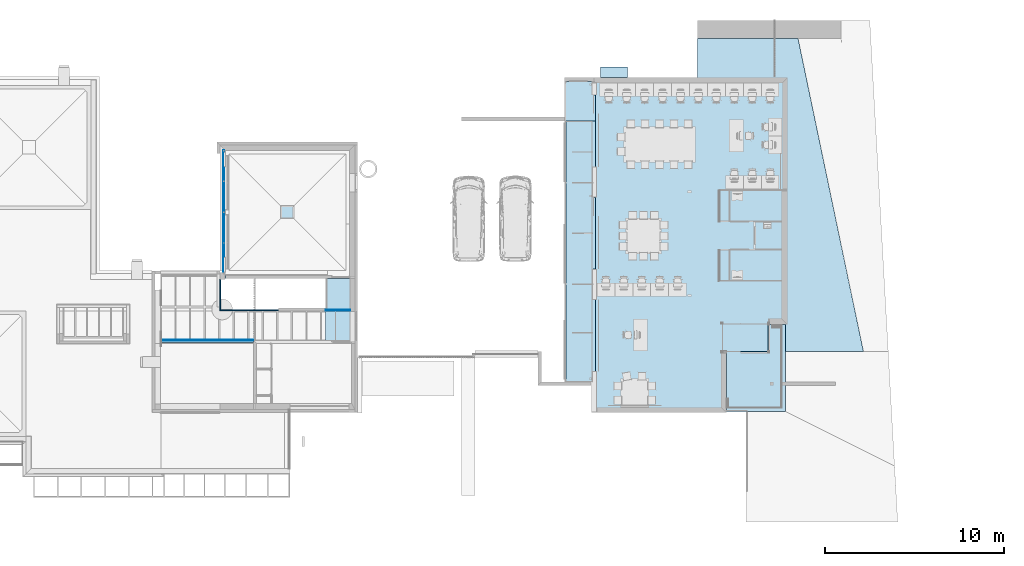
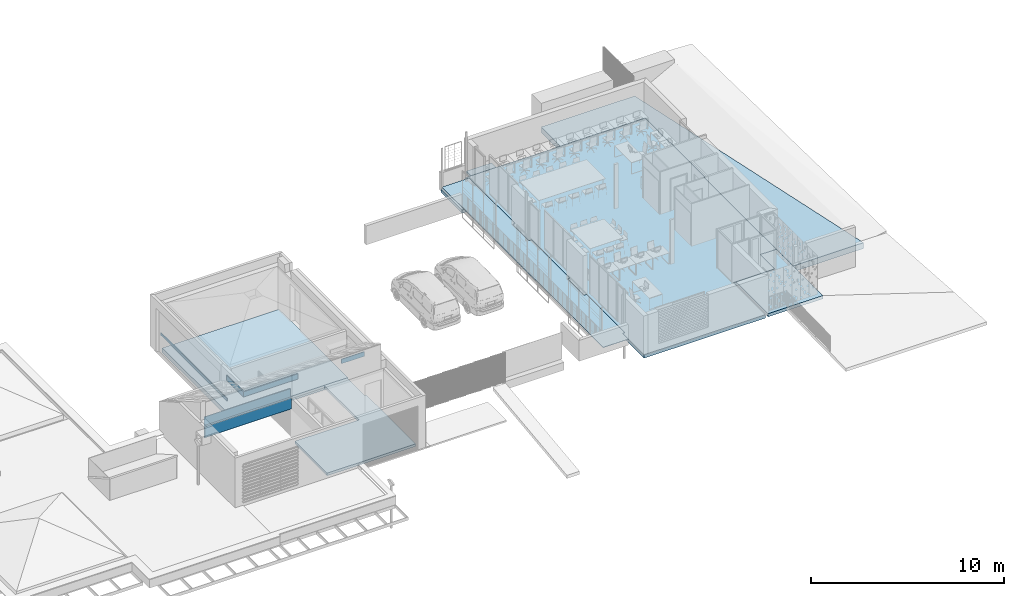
# One storey, part 13 of 51: 13 slabs.
"""IFC2X3 building model written with IfcOpenShell, lengths in metres."""

from ifc_helpers import new_model, entity, si_unit, converted_unit, derived_unit, direction, frame, frame_2d, origin, origin_2d_with_axis, place, context, subcontext, project, spatial, polyline, rectangle, outline, extrude, material, layer, layer_set, layer_usage, type_object, element, save


model = new_model("IFC2X3")

# Units and contexts
model_context = context("Model", 3, precision=1e-05, world=origin(), true_north=direction((6.123031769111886e-17, 1.0)))
body_context = subcontext(model_context, "Body", "Model", "MODEL_VIEW")
ifc_project = project(units=[si_unit("LENGTHUNIT", "METRE"), si_unit("AREAUNIT", "SQUARE_METRE"), si_unit("VOLUMEUNIT", "CUBIC_METRE"), converted_unit("PLANEANGLEUNIT", "DEGREE", entity("IfcRatioMeasure", 0.017453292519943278), si_unit("PLANEANGLEUNIT", "RADIAN"), dimensions=[0, 0, 0, 0, 0, 0, 0]), si_unit("MASSUNIT", "GRAM", prefix="KILO"), derived_unit("MASSDENSITYUNIT", [(si_unit("MASSUNIT", "GRAM", prefix="KILO"), 1), (si_unit("LENGTHUNIT", "METRE"), -3)]), derived_unit("MOMENTOFINERTIAUNIT", [(si_unit("LENGTHUNIT", "METRE"), 4)]), si_unit("TIMEUNIT", "SECOND"), si_unit("FREQUENCYUNIT", "HERTZ"), si_unit("THERMODYNAMICTEMPERATUREUNIT", "DEGREE_CELSIUS"), derived_unit("THERMALTRANSMITTANCEUNIT", [(si_unit("MASSUNIT", "GRAM", prefix="KILO"), 1), (si_unit("THERMODYNAMICTEMPERATUREUNIT", "KELVIN"), -1), (si_unit("TIMEUNIT", "SECOND"), -3)]), derived_unit("THERMALCONDUCTANCEUNIT", [(si_unit("MASSUNIT", "GRAM", prefix="KILO"), 1), (si_unit("LENGTHUNIT", "METRE"), 1), (si_unit("THERMODYNAMICTEMPERATUREUNIT", "KELVIN"), -1), (si_unit("TIMEUNIT", "SECOND"), -3)]), derived_unit("VOLUMETRICFLOWRATEUNIT", [(si_unit("LENGTHUNIT", "METRE"), 3), (si_unit("TIMEUNIT", "SECOND"), -1)]), derived_unit("MASSFLOWRATEUNIT", [(si_unit("MASSUNIT", "GRAM", prefix="KILO"), 1), (si_unit("TIMEUNIT", "SECOND"), -1)]), derived_unit("ROTATIONALFREQUENCYUNIT", [(si_unit("TIMEUNIT", "SECOND"), -1)]), si_unit("ELECTRICCURRENTUNIT", "AMPERE"), si_unit("ELECTRICVOLTAGEUNIT", "VOLT"), si_unit("POWERUNIT", "WATT"), si_unit("FORCEUNIT", "NEWTON", prefix="KILO"), si_unit("ILLUMINANCEUNIT", "LUX"), si_unit("LUMINOUSFLUXUNIT", "LUMEN"), si_unit("LUMINOUSINTENSITYUNIT", "CANDELA"), derived_unit("USERDEFINED", [(si_unit("MASSUNIT", "GRAM", prefix="KILO"), -1), (si_unit("LENGTHUNIT", "METRE"), -2), (si_unit("TIMEUNIT", "SECOND"), 3), (si_unit("LUMINOUSFLUXUNIT", "LUMEN"), 1)]), derived_unit("USERDEFINED", [(si_unit("MASSUNIT", "GRAM", prefix="KILO"), 1), (si_unit("LENGTHUNIT", "METRE"), 3), (si_unit("TIMEUNIT", "SECOND"), -3), (si_unit("ELECTRICCURRENTUNIT", "AMPERE"), -2)]), derived_unit("USERDEFINED", [(si_unit("LENGTHUNIT", "METRE"), 2), (si_unit("TIMEUNIT", "SECOND"), -2)]), derived_unit("SOUNDPOWERUNIT", [(si_unit("MASSUNIT", "GRAM", prefix="KILO"), 1), (si_unit("LENGTHUNIT", "METRE"), 2), (si_unit("TIMEUNIT", "SECOND"), -3)]), derived_unit("SOUNDPRESSUREUNIT", [(si_unit("MASSUNIT", "GRAM", prefix="KILO"), 1), (si_unit("LENGTHUNIT", "METRE"), -1), (si_unit("TIMEUNIT", "SECOND"), -2)]), derived_unit("LINEARVELOCITYUNIT", [(si_unit("LENGTHUNIT", "METRE"), 1), (si_unit("TIMEUNIT", "SECOND"), -1)]), si_unit("PRESSUREUNIT", "PASCAL"), derived_unit("USERDEFINED", [(si_unit("LENGTHUNIT", "METRE"), -2), (si_unit("MASSUNIT", "GRAM", prefix="KILO"), 1), (si_unit("TIMEUNIT", "SECOND"), -2)]), derived_unit("LINEARFORCEUNIT", [(si_unit("MASSUNIT", "GRAM", prefix="KILO"), 1), (si_unit("LENGTHUNIT", "METRE"), 1), (si_unit("TIMEUNIT", "SECOND"), -2), (si_unit("LENGTHUNIT", "METRE"), -1)]), derived_unit("PLANARFORCEUNIT", [(si_unit("MASSUNIT", "GRAM", prefix="KILO"), 1), (si_unit("LENGTHUNIT", "METRE"), 1), (si_unit("TIMEUNIT", "SECOND"), -2), (si_unit("LENGTHUNIT", "METRE"), -2)]), derived_unit("SPECIFICHEATCAPACITYUNIT", [(si_unit("LENGTHUNIT", "METRE"), 2), (si_unit("TIMEUNIT", "SECOND"), -2), (si_unit("THERMODYNAMICTEMPERATUREUNIT", "KELVIN"), -1)]), derived_unit("VAPORPERMEABILITYUNIT", [(si_unit("TIMEUNIT", "SECOND"), 1), (si_unit("LENGTHUNIT", "METRE"), -1)]), derived_unit("DYNAMICVISCOSITYUNIT", [(si_unit("MASSUNIT", "GRAM", prefix="KILO"), 1), (si_unit("LENGTHUNIT", "METRE"), -1), (si_unit("TIMEUNIT", "SECOND"), -1)]), derived_unit("THERMALEXPANSIONCOEFFICIENTUNIT", [(si_unit("THERMODYNAMICTEMPERATUREUNIT", "KELVIN"), -1)])], contexts=[model_context])

# Site, building, storey
site_placement = place(None, origin())
site = spatial("IfcSite", under=ifc_project, at=site_placement, Name="Default", CompositionType="ELEMENT")
building_placement = place(site_placement, origin())
building = spatial("IfcBuilding", under=site, at=building_placement, CompositionType="ELEMENT")
storey_placement = place(building_placement, frame((0.0, 0.0, 3.06)))
storey = spatial("IfcBuildingStorey", under=building, at=storey_placement, Name="ÉTAGE", CompositionType="ELEMENT", Elevation=3.06)

# Slabs
slab_type_1 = type_object("IfcSlabType", Name="Dalle-006", PredefinedType="FLOOR")
slab_1_placement = place(storey_placement, origin())
element("IfcSlab", 1, at=slab_1_placement, inside=storey, type_object=slab_type_1, Name="Dalle-006 252460:Dalle-006 252460", ObjectType="Dalle-006 252460:Dalle-006 252460", PredefinedType="FLOOR", context=body_context, shape_type="SweptSolid", body=[
    extrude(outline(polyline([(-6.558215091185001, -4.311786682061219), (-4.309261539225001, -4.311786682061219), (-4.309261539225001, 0.626212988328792), (-0.011261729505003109, 0.626212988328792), (-0.011261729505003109, 0.5762131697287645), (10.878738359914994, 0.5762131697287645), (10.878738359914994, 4.930508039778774), (-6.558215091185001, 1.2882130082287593), (-6.558215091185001, -4.311786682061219)])), frame((151.61253915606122, 21.865947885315, 0.6399999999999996), z_axis=(0.0, 0.0, 1.0), x_axis=(0.0, -1.0, 0.0)), (0.0, 0.0, 1.0), 0.36999999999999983),
])
ifc_material_1 = material(Name="Bois - Pin granuleux horizontal")
ifc_layer_1 = layer(ifc_material_1, 0.14999999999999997)
ifc_layer_set_1 = layer_set([ifc_layer_1], Name="Sol:Dalle-001:1532")
ifc_layer_usage_1 = layer_usage(ifc_layer_set_1, "AXIS3", "POSITIVE", 0.0)
slab_type_2 = type_object("IfcSlabType", Name="Sol:Dalle-001:1532", PredefinedType="FLOOR", material=ifc_layer_set_1)
slab_2_placement = place(storey_placement, origin())
element("IfcSlab", 2, at=slab_2_placement, inside=storey, type_object=slab_type_2, material=ifc_layer_usage_1, Name="Sol:Dalle-001:1532", ObjectType="Sol:Dalle-001:1532", PredefinedType="FLOOR", context=body_context, shape_type="SweptSolid", body=[
    extrude(rectangle(XDim=6.879999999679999, YDim=0.04999999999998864, at=frame_2d((-1.9984014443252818e-15, 0.0), x_axis=(1.0, 0.0))), frame((120.905752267, 18.747209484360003, 1.0), z_axis=(0.0, 0.0, -1.0), x_axis=(0.0, 1.0, 0.0)), (0.0, 0.0, 1.0), 0.15000000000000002),
])
ifc_material_2 = material(Name="Appareillage - Pierre taillé")
ifc_layer_2 = layer(ifc_material_2, 0.28)
ifc_layer_set_2 = layer_set([ifc_layer_2], Name="Sol:Dalle-005:1552")
ifc_layer_usage_2 = layer_usage(ifc_layer_set_2, "AXIS3", "POSITIVE", 0.0)
slab_type_3 = type_object("IfcSlabType", Name="Sol:Dalle-005:1552", PredefinedType="FLOOR", material=ifc_layer_set_2)
slab_3_placement = place(storey_placement, origin())
element("IfcSlab", 3, at=slab_3_placement, inside=storey, type_object=slab_type_3, material=ifc_layer_usage_2, Name="Sol:Dalle-005:1552", ObjectType="Sol:Dalle-005:1552", PredefinedType="FLOOR", context=body_context, shape_type="SweptSolid", body=[
    extrude(rectangle(XDim=7.140000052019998, YDim=7.010000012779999, at=frame_2d((0.0, 8.659739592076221e-15), x_axis=(1.0, 0.0))), frame((124.48575227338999, 18.617209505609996, 0.0), z_axis=(0.0, 0.0, -1.0), x_axis=(0.0, 1.0, 0.0)), (0.0, 0.0, 1.0), 0.28000000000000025),
])
ifc_material_3 = material(Name="Plastique - Laminé")
ifc_layer_3 = layer(ifc_material_3, 0.02)
ifc_material_4 = material(Name="Béton - Lissé")
ifc_layer_4 = layer(ifc_material_4, 0.04)
ifc_material_5 = material(Name="Isolation - Polystyrène")
ifc_layer_5 = layer(ifc_material_5, 0.16)
ifc_layer_set_3 = layer_set([ifc_layer_3, ifc_layer_4, ifc_layer_5], Name="Sol:Dalle-005:1561")
ifc_layer_usage_3 = layer_usage(ifc_layer_set_3, "AXIS3", "POSITIVE", 0.0)
slab_type_4 = type_object("IfcSlabType", Name="Sol:Dalle-005:1561", PredefinedType="FLOOR", material=ifc_layer_set_3)
slab_4_placement = place(storey_placement, origin())
element("IfcSlab", 4, at=slab_4_placement, inside=storey, type_object=slab_type_4, material=ifc_layer_usage_3, Name="Sol:Dalle-005:1561", ObjectType="Sol:Dalle-005:1561", PredefinedType="FLOOR", context=body_context, shape_type="SweptSolid", body=[
    extrude(outline(polyline([(-2.7400354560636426, -3.544545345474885), (-1.040035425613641, -3.544545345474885), (-1.040035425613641, -3.3965456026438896), (2.9599646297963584, -3.3965456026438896), (2.9599646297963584, -3.544545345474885), (4.660013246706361, -3.544545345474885), (4.660013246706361, -3.3965456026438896), (8.660013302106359, -3.3965456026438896), (8.660013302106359, -3.544545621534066), (9.558013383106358, -3.544545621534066), (9.558013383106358, 7.231454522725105), (3.4100132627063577, 7.231454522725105), (3.4100132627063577, 7.18145440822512), (-4.129986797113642, 7.18145440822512), (-4.129986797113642, 6.223454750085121), (-5.629986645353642, 6.223454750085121), (-5.629986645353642, 3.731454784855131), (-8.96798685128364, 3.731454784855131), (-8.96798685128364, -3.544545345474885), (-6.739986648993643, -3.544545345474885), (-6.739986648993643, -3.3965456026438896), (-2.7400354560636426, -3.3965456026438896), (-2.7400354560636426, -3.544545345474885)])), frame((145.00729775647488, 16.617196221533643, 1.2099999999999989), z_axis=(0.0, 0.0, -1.0), x_axis=(0.0, 1.0, 0.0)), (0.0, 0.0, 1.0), 0.2199999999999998),
])
ifc_material_6 = material(Name="Carrelage - Faience")
ifc_layer_6 = layer(ifc_material_6, 0.03)
ifc_layer_set_4 = layer_set([ifc_layer_6], Name="Sol:Dalle-005:1564")
ifc_layer_usage_4 = layer_usage(ifc_layer_set_4, "AXIS3", "POSITIVE", 0.0)
slab_type_5 = type_object("IfcSlabType", Name="Sol:Dalle-005:1564", PredefinedType="FLOOR", material=ifc_layer_set_4)
slab_5_placement = place(storey_placement, origin())
element("IfcSlab", 5, at=slab_5_placement, inside=storey, type_object=slab_type_5, material=ifc_layer_usage_4, Name="Sol:Dalle-005:1564", ObjectType="Sol:Dalle-005:1564", PredefinedType="FLOOR", context=body_context, shape_type="SweptSolid", body=[
    extrude(outline(polyline([(-7.214268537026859, -1.3422855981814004), (9.53575714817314, -1.3422855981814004), (9.53575714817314, 0.29771431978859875), (4.7757314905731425, 0.29771431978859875), (4.7757314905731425, 0.14971421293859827), (3.075682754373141, 0.14971421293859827), (3.075682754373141, 0.29771431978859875), (-0.9243171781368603, 0.29771431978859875), (-0.9243171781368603, 0.14971421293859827), (-2.6243171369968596, 0.14971421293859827), (-2.6243171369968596, 0.29771431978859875), (-6.624268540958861, 0.29771431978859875), (-6.624268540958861, 0.14971421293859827), (-7.214268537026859, 0.14971421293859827), (-7.214268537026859, -1.3422855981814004)])), frame((141.3130379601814, 16.50147806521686, 1.2099999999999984), z_axis=(0.0, 0.0, -1.0), x_axis=(0.0, 1.0, 0.0)), (0.0, 0.0, 1.0), 0.030000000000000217),
])
ifc_material_7 = material(Name="Plâtre - Plaques de plâtre")
ifc_layer_7 = layer(ifc_material_7, 1.33)
ifc_layer_set_5 = layer_set([ifc_layer_7], Name="Sol:Dalle-010:1568")
ifc_layer_usage_5 = layer_usage(ifc_layer_set_5, "AXIS3", "POSITIVE", 0.0)
slab_type_6 = type_object("IfcSlabType", Name="Sol:Dalle-010:1568", PredefinedType="FLOOR", material=ifc_layer_set_5)
slab_6_placement = place(storey_placement, origin())
element("IfcSlab", 6, at=slab_6_placement, inside=storey, type_object=slab_type_6, material=ifc_layer_usage_5, Name="Sol:Dalle-010:1568", ObjectType="Sol:Dalle-010:1568", PredefinedType="FLOOR", context=body_context, shape_type="SweptSolid", body=[
    extrude(rectangle(XDim=0.02999999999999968, YDim=5.169999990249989, at=frame_2d((-1.083334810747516e-15, 8.659739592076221e-15), x_axis=(1.0, 0.0))), frame((119.96575227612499, 11.622209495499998, 3.2899999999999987), z_axis=(0.0, 0.0, -1.0), x_axis=(0.0, 1.0, 0.0)), (0.0, 0.0, 1.0), 1.3299999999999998),
])
ifc_material_8 = material(Name="Béton - Parpaing (Blocs)")
ifc_layer_8 = layer(ifc_material_8, 0.2)
ifc_layer_set_6 = layer_set([ifc_layer_8], Name="Sol:Dalle-005:1569")
ifc_layer_usage_6 = layer_usage(ifc_layer_set_6, "AXIS3", "POSITIVE", 0.0)
slab_type_7 = type_object("IfcSlabType", Name="Sol:Dalle-005:1569", PredefinedType="FLOOR", material=ifc_layer_set_6)
slab_7_placement = place(storey_placement, origin())
element("IfcSlab", 7, at=slab_7_placement, inside=storey, type_object=slab_type_7, material=ifc_layer_usage_6, Name="Sol:Dalle-005:1569", ObjectType="Sol:Dalle-005:1569", PredefinedType="FLOOR", context=body_context, shape_type="SweptSolid", body=[
    extrude(outline(polyline([(-2.726666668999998, -1.872666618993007), (0.6133333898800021, -1.872666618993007), (0.6133333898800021, 0.45733334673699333), (2.1133332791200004, 0.45733334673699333), (2.1133332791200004, 1.4153332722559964), (-2.726666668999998, 1.4153332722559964), (-2.726666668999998, -1.872666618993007)])), frame((150.773418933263, 10.373876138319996, 1.21), z_axis=(0.0, 0.0, -1.0), x_axis=(0.0, 1.0, 0.0)), (0.0, 0.0, 1.0), 0.2),
])
slab_8_placement = place(storey_placement, origin())
element("IfcSlab", 8, at=slab_8_placement, inside=storey, type_object=slab_type_7, material=ifc_layer_usage_6, Name="Sol:Dalle-005:1569", ObjectType="Sol:Dalle-005:1569", PredefinedType="FLOOR", context=body_context, shape_type="SweptSolid", body=[
    extrude(outline(polyline([(-1.2136582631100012, -1.0906665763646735), (0.9873164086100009, -1.0906665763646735), (0.9873164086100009, 0.47133323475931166), (0.22634185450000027, 0.47133323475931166), (0.22634185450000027, 0.6193333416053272), (-1.2136582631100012, 0.6193333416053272), (-1.2136582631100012, -1.0906665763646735)])), frame((140.99141893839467, 25.05086763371, 1.1099999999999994), z_axis=(0.0, 0.0, -1.0), x_axis=(0.0, 1.0, 0.0)), (0.0, 0.0, 1.0), 0.2),
])
ifc_material_9 = material(Name="Peinture - Blanc brillant")
ifc_layer_9 = layer(ifc_material_9, 0.32999999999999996)
ifc_layer_set_7 = layer_set([ifc_layer_9], Name="Sol:Dalle-010:1572")
ifc_layer_usage_7 = layer_usage(ifc_layer_set_7, "AXIS3", "POSITIVE", 0.0)
slab_type_8 = type_object("IfcSlabType", Name="Sol:Dalle-010:1572", PredefinedType="FLOOR", material=ifc_layer_set_7)
slab_9_placement = place(storey_placement, origin())
element("IfcSlab", 9, at=slab_9_placement, inside=storey, type_object=slab_type_8, material=ifc_layer_usage_7, Name="Sol:Dalle-010:1572", ObjectType="Sol:Dalle-010:1572", PredefinedType="FLOOR", context=body_context, shape_type="SweptSolid", body=[
    extrude(outline(polyline([(-0.6000000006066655, -1.1066666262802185), (1.1500000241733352, -1.1066666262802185), (1.1500000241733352, -1.0566666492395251), (-0.5500000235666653, -1.0566666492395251), (-0.5500000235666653, 2.1633332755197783), (-0.6000000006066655, 2.1633332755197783), (-0.6000000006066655, -1.1066666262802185)])), frame((121.78741899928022, 13.847209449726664, 2.739999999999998), z_axis=(0.0, 0.0, -1.0), x_axis=(0.0, 1.0, 0.0)), (0.0, 0.0, 1.0), 0.3299999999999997),
])
ifc_layer_10 = layer(ifc_material_9, 0.28)
ifc_layer_set_8 = layer_set([ifc_layer_10], Name="Sol:Dalle-010:1573")
ifc_layer_usage_8 = layer_usage(ifc_layer_set_8, "AXIS3", "POSITIVE", 0.0)
slab_type_9 = type_object("IfcSlabType", Name="Sol:Dalle-010:1573", PredefinedType="FLOOR", material=ifc_layer_set_8)
slab_10_placement = place(storey_placement, origin())
element("IfcSlab", 10, at=slab_10_placement, inside=storey, type_object=slab_type_9, material=ifc_layer_usage_8, Name="Sol:Dalle-010:1573", ObjectType="Sol:Dalle-010:1573", PredefinedType="FLOOR", context=body_context, shape_type="SweptSolid", body=[
    extrude(rectangle(XDim=0.050000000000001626, YDim=1.3699999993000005, at=origin_2d_with_axis()), frame((127.25575228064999, 13.272209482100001, 2.7399999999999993), z_axis=(0.0, 0.0, -1.0), x_axis=(0.0, 1.0, 0.0)), (0.0, 0.0, 1.0), 0.28000000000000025),
])
ifc_material_10 = material(Name="Isolation - Fibre de verre")
ifc_layer_11 = layer(ifc_material_10, 0.68)
ifc_layer_set_9 = layer_set([ifc_layer_11], Name="Sol:Dalle-010")
ifc_layer_usage_9 = layer_usage(ifc_layer_set_9, "AXIS3", "POSITIVE", 0.0)
slab_type_10 = type_object("IfcSlabType", Name="Sol:Dalle-010", PredefinedType="FLOOR", material=ifc_layer_set_9)
slab_11_placement = place(storey_placement, origin())
element("IfcSlab", 11, at=slab_11_placement, inside=storey, type_object=slab_type_10, material=ifc_layer_usage_9, Name="Sol:Dalle-010", ObjectType="Sol:Dalle-010", PredefinedType="FLOOR", context=body_context, shape_type="SweptSolid", body=[
    extrude(rectangle(XDim=0.1199999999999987, YDim=5.169999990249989, at=frame_2d((0.0, 8.659739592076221e-15), x_axis=(1.0, 0.0))), frame((119.96575227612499, 11.547209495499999, 2.759999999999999), z_axis=(0.0, 0.0, -1.0), x_axis=(0.0, 1.0, 0.0)), (0.0, 0.0, 1.0), 0.6800000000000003),
])
ifc_layer_12 = layer(ifc_material_2, 0.16)
ifc_layer_set_10 = layer_set([ifc_layer_12], Name="Sol:Dalle-005:1592")
ifc_layer_usage_10 = layer_usage(ifc_layer_set_10, "AXIS3", "POSITIVE", 0.0)
slab_type_11 = type_object("IfcSlabType", Name="Sol:Dalle-005:1592", PredefinedType="FLOOR", material=ifc_layer_set_10)
slab_12_placement = place(storey_placement, origin())
element("IfcSlab", 12, at=slab_12_placement, inside=storey, type_object=slab_type_11, material=ifc_layer_usage_10, Name="Sol:Dalle-005:1592", ObjectType="Sol:Dalle-005:1592", PredefinedType="FLOOR", context=body_context, shape_type="SweptSolid", body=[
    extrude(outline(polyline([(-3.857500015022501, -3.5950000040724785), (-0.5074999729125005, -3.5950000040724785), (-0.5074999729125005, 0.25500008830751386), (3.102499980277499, 0.25500008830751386), (3.102499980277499, 1.6249999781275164), (1.2625000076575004, 1.6249999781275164), (1.2625000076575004, 1.7149999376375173), (-3.857500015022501, 1.7149999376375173), (-3.857500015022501, -3.5950000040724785)])), frame((126.31575233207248, 11.9447094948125, 0.0), z_axis=(0.0, 0.0, -1.0), x_axis=(0.0, 1.0, 0.0)), (0.0, 0.0, 1.0), 0.1599999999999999),
])
ifc_layer_13 = layer(ifc_material_8, 0.12)
ifc_layer_set_11 = layer_set([ifc_layer_13], Name="Sol:Dalle-005:1705")
ifc_layer_usage_11 = layer_usage(ifc_layer_set_11, "AXIS3", "POSITIVE", 0.0)
slab_type_12 = type_object("IfcSlabType", Name="Sol:Dalle-005:1705", PredefinedType="FLOOR", material=ifc_layer_set_11)
slab_13_placement = place(storey_placement, origin())
element("IfcSlab", 13, at=slab_13_placement, inside=storey, type_object=slab_type_12, material=ifc_layer_usage_11, Name="Sol:Dalle-005:1705", ObjectType="Sol:Dalle-005:1705", PredefinedType="FLOOR", context=body_context, shape_type="SweptSolid", body=[
    extrude(rectangle(XDim=0.6000000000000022, YDim=1.5000000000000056, at=origin_2d_with_axis()), frame((142.650752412, 26.537235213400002, 1.0599999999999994), z_axis=(0.0, 0.0, -1.0), x_axis=(0.0, 1.0, 0.0)), (0.0, 0.0, 1.0), 0.11999999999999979),
])

save(model, "model.ifc")
